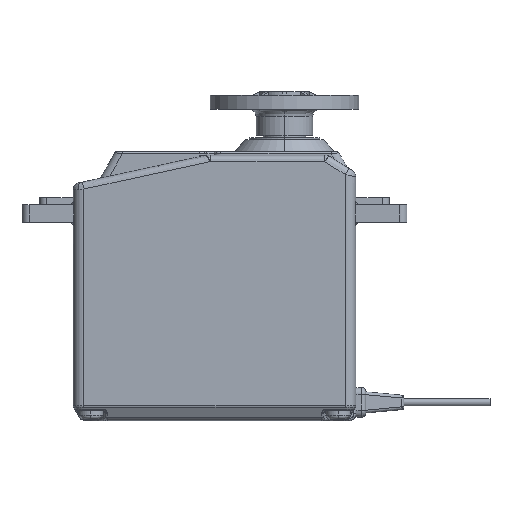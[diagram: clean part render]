
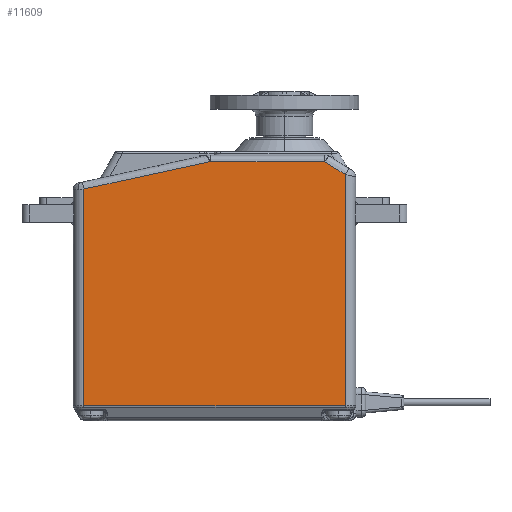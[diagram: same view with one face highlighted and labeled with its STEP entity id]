
A CAD part, left-side view. The second image highlights one B-rep face of the part: STEP entity #11609.
In plain terms, the highlighted planar face has unit normal (-1, 0, 0) as drawn and (1, 0, 0) by its records, which use the part's own axes.
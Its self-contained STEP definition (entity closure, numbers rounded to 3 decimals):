
#795 = CARTESIAN_POINT ( 'NONE',  ( 10., 10.1, -35.966 ) ) ;
#1426 = VECTOR ( 'NONE', #2731, 1000. ) ;
#1442 = ORIENTED_EDGE ( 'NONE', *, *, #19609, .F. ) ;
#2115 = EDGE_CURVE ( 'NONE', #2974, #9412, #9174, .T. ) ;
#2731 = DIRECTION ( 'NONE',  ( 0., 0., -1. ) ) ;
#2738 = LINE ( 'NONE', #10265, #4713 ) ;
#2770 = VERTEX_POINT ( 'NONE', #19535 ) ;
#2828 = LINE ( 'NONE', #16990, #1426 ) ;
#2921 = CARTESIAN_POINT ( 'NONE',  ( 10., 5.653, -1.4 ) ) ;
#2974 = VERTEX_POINT ( 'NONE', #2921 ) ;
#3105 = CARTESIAN_POINT ( 'NONE',  ( 10., -28.4, -35.966 ) ) ;
#3166 = CARTESIAN_POINT ( 'NONE',  ( 10., 5.653, -1.4 ) ) ;
#3529 = DIRECTION ( 'NONE',  ( 0., 0.848, -0.53 ) ) ;
#3860 = PLANE ( 'NONE',  #17410 ) ;
#4267 = CARTESIAN_POINT ( 'NONE',  ( 10., -10.43, -1.4 ) ) ;
#4713 = VECTOR ( 'NONE', #8541, 1000. ) ;
#4919 = VECTOR ( 'NONE', #10120, 1000. ) ;
#5184 = ORIENTED_EDGE ( 'NONE', *, *, #8538, .F. ) ;
#5941 = ORIENTED_EDGE ( 'NONE', *, *, #2115, .T. ) ;
#6186 = VERTEX_POINT ( 'NONE', #3105 ) ;
#6197 = VECTOR ( 'NONE', #7642, 1000. ) ;
#6251 = EDGE_CURVE ( 'NONE', #9412, #9736, #9711, .T. ) ;
#6639 = EDGE_CURVE ( 'NONE', #9117, #6186, #13227, .T. ) ;
#7023 = CARTESIAN_POINT ( 'NONE',  ( 10., 10.1, -13.1 ) ) ;
#7642 = DIRECTION ( 'NONE',  ( 0., -1., 0. ) ) ;
#8111 = LINE ( 'NONE', #19118, #16775 ) ;
#8538 = EDGE_CURVE ( 'NONE', #2770, #9117, #2828, .T. ) ;
#8541 = DIRECTION ( 'NONE',  ( 0., 0., 1. ) ) ;
#8587 = CARTESIAN_POINT ( 'NONE',  ( 10., -16.968, -2.818 ) ) ;
#9117 = VERTEX_POINT ( 'NONE', #18648 ) ;
#9174 = LINE ( 'NONE', #3166, #6197 ) ;
#9374 = EDGE_CURVE ( 'NONE', #6186, #9736, #2738, .T. ) ;
#9412 = VERTEX_POINT ( 'NONE', #4267 ) ;
#9711 = LINE ( 'NONE', #8587, #4919 ) ;
#9736 = VERTEX_POINT ( 'NONE', #10145 ) ;
#9956 = ORIENTED_EDGE ( 'NONE', *, *, #6639, .F. ) ;
#10120 = DIRECTION ( 'NONE',  ( 0., -0.977, -0.212 ) ) ;
#10145 = CARTESIAN_POINT ( 'NONE',  ( 10., -28.4, -5.298 ) ) ;
#10265 = CARTESIAN_POINT ( 'NONE',  ( 10., -28.4, -13.1 ) ) ;
#11510 = DIRECTION ( 'NONE',  ( -1., 0., 0. ) ) ;
#11604 = DIRECTION ( 'NONE',  ( 0., -1., 0. ) ) ;
#11609 = ADVANCED_FACE ( 'NONE', ( #17829 ), #3860, .F. ) ;
#12083 = ORIENTED_EDGE ( 'NONE', *, *, #9374, .F. ) ;
#13227 = LINE ( 'NONE', #795, #18293 ) ;
#14576 = ORIENTED_EDGE ( 'NONE', *, *, #6251, .T. ) ;
#14978 = DIRECTION ( 'NONE',  ( 0., 0., 1. ) ) ;
#15362 = EDGE_LOOP ( 'NONE', ( #14576, #12083, #9956, #5184, #1442, #5941 ) ) ;
#16775 = VECTOR ( 'NONE', #3529, 1000. ) ;
#16990 = CARTESIAN_POINT ( 'NONE',  ( 10., 8.6, -10.4 ) ) ;
#17410 = AXIS2_PLACEMENT_3D ( 'NONE', #7023, #11510, #14978 ) ;
#17829 = FACE_OUTER_BOUND ( 'NONE', #15362, .T. ) ;
#18293 = VECTOR ( 'NONE', #11604, 1000. ) ;
#18648 = CARTESIAN_POINT ( 'NONE',  ( 10., 8.6, -35.966 ) ) ;
#19118 = CARTESIAN_POINT ( 'NONE',  ( 10., 6.009, -1.622 ) ) ;
#19535 = CARTESIAN_POINT ( 'NONE',  ( 10., 8.6, -3.242 ) ) ;
#19609 = EDGE_CURVE ( 'NONE', #2974, #2770, #8111, .T. ) ;
